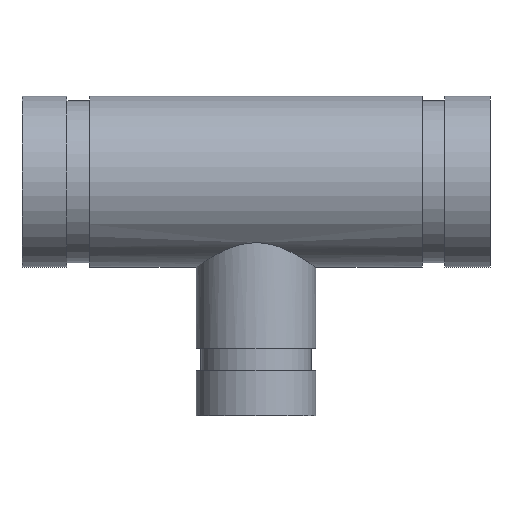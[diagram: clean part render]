
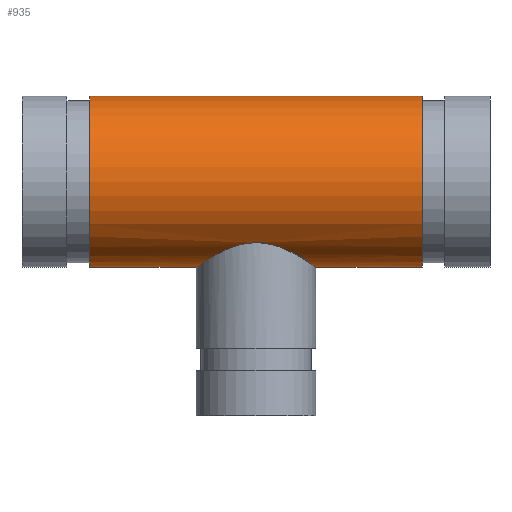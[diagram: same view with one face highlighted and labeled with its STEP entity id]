
A CAD part, top view. The second image highlights one B-rep face of the part: STEP entity #935.
In plain terms, the highlighted cylindrical face has radius 30.163 mm (diameter 60.325 mm), a full revolution.
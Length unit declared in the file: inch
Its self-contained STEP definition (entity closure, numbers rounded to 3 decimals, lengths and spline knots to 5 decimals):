
#61=FACE_BOUND('',#222,.T.);
#67=B_SPLINE_CURVE_WITH_KNOTS('',3,(#1799,#1800,#1801,#1802,#1803,#1804,
#1805,#1806,#1807,#1808,#1809,#1810,#1811,#1812,#1813,#1814,#1815,#1816),
 .UNSPECIFIED.,.F.,.F.,(4,2,2,2,2,2,2,2,4),(0.,0.41885,0.8377,
1.25655,1.6754,2.08832,2.50125,2.91417,
3.32709),.UNSPECIFIED.);
#68=B_SPLINE_CURVE_WITH_KNOTS('',3,(#1817,#1818,#1819,#1820,#1821,#1822,
#1823,#1824,#1825,#1826,#1827,#1828,#1829,#1830,#1831,#1832,#1833,#1834,
#1835,#1836,#1837,#1838,#1839,#1840,#1841,#1842,#1843,#1844,#1845,#1846,
#1847,#1848,#1849,#1850,#1851,#1852,#1853,#1854,#1855,#1856,#1857,#1858,
#1859,#1860,#1861,#1862,#1863,#1864,#1865,#1866),.UNSPECIFIED.,.F.,.F.,
(4,2,2,2,2,2,2,2,2,2,2,2,2,2,2,2,2,2,2,2,2,2,2,2,4),(3.32709,3.74001,
4.15293,4.56585,4.97877,5.39762,5.81648,
6.23533,6.65418,7.07303,7.49188,7.91073,
8.32958,8.7425,9.15542,9.56834,9.98127,
10.39419,10.80711,11.22003,11.63295,12.0518,
12.47065,12.8895,13.30835),.UNSPECIFIED.);
#81=CYLINDRICAL_SURFACE('',#1104,1.1875);
#103=LINE('',#1796,#125);
#125=VECTOR('',#1432,1.1875);
#171=FACE_OUTER_BOUND('',#221,.T.);
#221=EDGE_LOOP('',(#814,#815,#816,#817));
#222=EDGE_LOOP('',(#818,#819));
#326=CIRCLE('',#1087,1.1875);
#337=CIRCLE('',#1103,1.1875);
#424=VERTEX_POINT('',#1764);
#435=VERTEX_POINT('',#1793);
#436=VERTEX_POINT('',#1797);
#437=VERTEX_POINT('',#1798);
#552=EDGE_CURVE('',#424,#424,#326,.T.);
#565=EDGE_CURVE('',#435,#435,#337,.T.);
#566=EDGE_CURVE('',#435,#424,#103,.T.);
#567=EDGE_CURVE('',#436,#437,#67,.T.);
#568=EDGE_CURVE('',#437,#436,#68,.T.);
#814=ORIENTED_EDGE('',*,*,#565,.T.);
#815=ORIENTED_EDGE('',*,*,#566,.T.);
#816=ORIENTED_EDGE('',*,*,#552,.T.);
#817=ORIENTED_EDGE('',*,*,#566,.F.);
#818=ORIENTED_EDGE('',*,*,#567,.T.);
#819=ORIENTED_EDGE('',*,*,#568,.T.);
#935=ADVANCED_FACE('',(#171,#61),#81,.T.);
#1087=AXIS2_PLACEMENT_3D('',#1765,#1394,#1395);
#1103=AXIS2_PLACEMENT_3D('',#1794,#1428,#1429);
#1104=AXIS2_PLACEMENT_3D('',#1795,#1430,#1431);
#1394=DIRECTION('center_axis',(-1.,0.,0.));
#1395=DIRECTION('ref_axis',(0.,-1.,0.));
#1428=DIRECTION('center_axis',(1.,0.,0.));
#1429=DIRECTION('ref_axis',(0.,-1.,0.));
#1430=DIRECTION('center_axis',(-1.,0.,0.));
#1431=DIRECTION('ref_axis',(0.,-1.,0.));
#1432=DIRECTION('',(1.,0.,0.));
#1764=CARTESIAN_POINT('',(2.312,1.1875,0.));
#1765=CARTESIAN_POINT('Origin',(2.312,0.,0.));
#1793=CARTESIAN_POINT('',(-2.312,1.1875,0.));
#1794=CARTESIAN_POINT('Origin',(-2.312,0.,0.));
#1795=CARTESIAN_POINT('Origin',(3.25,0.,0.));
#1796=CARTESIAN_POINT('',(3.25,1.1875,0.));
#1797=CARTESIAN_POINT('',(0.,-0.84927,-0.83));
#1798=CARTESIAN_POINT('',(-0.83,-1.1875,0.));
#1799=CARTESIAN_POINT('Ctrl Pts',(0.,-0.84927,
-0.83));
#1800=CARTESIAN_POINT('Ctrl Pts',(-0.05497,-0.84927,
-0.83));
#1801=CARTESIAN_POINT('Ctrl Pts',(-0.11058,-0.85477,
-0.82447));
#1802=CARTESIAN_POINT('Ctrl Pts',(-0.21939,-0.87552,
-0.8024));
#1803=CARTESIAN_POINT('Ctrl Pts',(-0.27259,-0.89069,
-0.78588));
#1804=CARTESIAN_POINT('Ctrl Pts',(-0.37366,-0.92663,
-0.74316));
#1805=CARTESIAN_POINT('Ctrl Pts',(-0.42163,-0.94738,
-0.71693));
#1806=CARTESIAN_POINT('Ctrl Pts',(-0.51022,-0.98999,
-0.65684));
#1807=CARTESIAN_POINT('Ctrl Pts',(-0.55084,-1.01183,
-0.62296));
#1808=CARTESIAN_POINT('Ctrl Pts',(-0.62245,-1.05254,
-0.55135));
#1809=CARTESIAN_POINT('Ctrl Pts',(-0.65623,-1.07301,
-0.51101));
#1810=CARTESIAN_POINT('Ctrl Pts',(-0.71648,-1.11088,
-0.42241));
#1811=CARTESIAN_POINT('Ctrl Pts',(-0.74295,-1.12826,
-0.37413));
#1812=CARTESIAN_POINT('Ctrl Pts',(-0.786,-1.15706,-0.27233));
#1813=CARTESIAN_POINT('Ctrl Pts',(-0.8026,-1.16849,
-0.21869));
#1814=CARTESIAN_POINT('Ctrl Pts',(-0.82461,-1.18371,
-0.10962));
#1815=CARTESIAN_POINT('Ctrl Pts',(-0.83,-1.1875,-0.05419));
#1816=CARTESIAN_POINT('Ctrl Pts',(-0.83,-1.1875,0.));
#1817=CARTESIAN_POINT('Ctrl Pts',(-0.83,-1.1875,0.));
#1818=CARTESIAN_POINT('Ctrl Pts',(-0.83,-1.1875,0.05419));
#1819=CARTESIAN_POINT('Ctrl Pts',(-0.82461,-1.18371,
0.10962));
#1820=CARTESIAN_POINT('Ctrl Pts',(-0.8026,-1.16849,
0.21869));
#1821=CARTESIAN_POINT('Ctrl Pts',(-0.786,-1.15706,0.27233));
#1822=CARTESIAN_POINT('Ctrl Pts',(-0.74295,-1.12826,
0.37413));
#1823=CARTESIAN_POINT('Ctrl Pts',(-0.71648,-1.11088,
0.42241));
#1824=CARTESIAN_POINT('Ctrl Pts',(-0.65623,-1.07301,
0.51101));
#1825=CARTESIAN_POINT('Ctrl Pts',(-0.62245,-1.05254,
0.55135));
#1826=CARTESIAN_POINT('Ctrl Pts',(-0.55084,-1.01183,
0.62296));
#1827=CARTESIAN_POINT('Ctrl Pts',(-0.51022,-0.98999,
0.65684));
#1828=CARTESIAN_POINT('Ctrl Pts',(-0.42163,-0.94738,
0.71693));
#1829=CARTESIAN_POINT('Ctrl Pts',(-0.37366,-0.92663,
0.74316));
#1830=CARTESIAN_POINT('Ctrl Pts',(-0.27259,-0.89069,
0.78588));
#1831=CARTESIAN_POINT('Ctrl Pts',(-0.21939,-0.87552,
0.8024));
#1832=CARTESIAN_POINT('Ctrl Pts',(-0.11058,-0.85477,
0.82447));
#1833=CARTESIAN_POINT('Ctrl Pts',(-0.05497,-0.84927,
0.83));
#1834=CARTESIAN_POINT('Ctrl Pts',(0.05497,-0.84927,
0.83));
#1835=CARTESIAN_POINT('Ctrl Pts',(0.11058,-0.85477,
0.82447));
#1836=CARTESIAN_POINT('Ctrl Pts',(0.21939,-0.87552,0.8024));
#1837=CARTESIAN_POINT('Ctrl Pts',(0.27259,-0.89069,
0.78588));
#1838=CARTESIAN_POINT('Ctrl Pts',(0.37366,-0.92663,
0.74316));
#1839=CARTESIAN_POINT('Ctrl Pts',(0.42163,-0.94738,
0.71693));
#1840=CARTESIAN_POINT('Ctrl Pts',(0.51022,-0.98999,
0.65684));
#1841=CARTESIAN_POINT('Ctrl Pts',(0.55084,-1.01183,0.62296));
#1842=CARTESIAN_POINT('Ctrl Pts',(0.62245,-1.05254,0.55135));
#1843=CARTESIAN_POINT('Ctrl Pts',(0.65623,-1.07301,0.51101));
#1844=CARTESIAN_POINT('Ctrl Pts',(0.71648,-1.11088,0.42241));
#1845=CARTESIAN_POINT('Ctrl Pts',(0.74295,-1.12826,0.37413));
#1846=CARTESIAN_POINT('Ctrl Pts',(0.786,-1.15706,0.27233));
#1847=CARTESIAN_POINT('Ctrl Pts',(0.8026,-1.16849,0.21869));
#1848=CARTESIAN_POINT('Ctrl Pts',(0.82461,-1.18371,0.10962));
#1849=CARTESIAN_POINT('Ctrl Pts',(0.83,-1.1875,0.05419));
#1850=CARTESIAN_POINT('Ctrl Pts',(0.83,-1.1875,-0.05419));
#1851=CARTESIAN_POINT('Ctrl Pts',(0.82461,-1.18371,-0.10962));
#1852=CARTESIAN_POINT('Ctrl Pts',(0.8026,-1.16849,-0.21869));
#1853=CARTESIAN_POINT('Ctrl Pts',(0.786,-1.15706,-0.27233));
#1854=CARTESIAN_POINT('Ctrl Pts',(0.74295,-1.12826,-0.37413));
#1855=CARTESIAN_POINT('Ctrl Pts',(0.71648,-1.11088,-0.42241));
#1856=CARTESIAN_POINT('Ctrl Pts',(0.65623,-1.07301,-0.51101));
#1857=CARTESIAN_POINT('Ctrl Pts',(0.62245,-1.05254,-0.55135));
#1858=CARTESIAN_POINT('Ctrl Pts',(0.55084,-1.01183,-0.62296));
#1859=CARTESIAN_POINT('Ctrl Pts',(0.51022,-0.98999,
-0.65684));
#1860=CARTESIAN_POINT('Ctrl Pts',(0.42163,-0.94738,
-0.71693));
#1861=CARTESIAN_POINT('Ctrl Pts',(0.37366,-0.92663,
-0.74316));
#1862=CARTESIAN_POINT('Ctrl Pts',(0.27259,-0.89069,
-0.78588));
#1863=CARTESIAN_POINT('Ctrl Pts',(0.21939,-0.87552,
-0.8024));
#1864=CARTESIAN_POINT('Ctrl Pts',(0.11058,-0.85477,
-0.82447));
#1865=CARTESIAN_POINT('Ctrl Pts',(0.05497,-0.84927,
-0.83));
#1866=CARTESIAN_POINT('Ctrl Pts',(0.,-0.84927,
-0.83));
